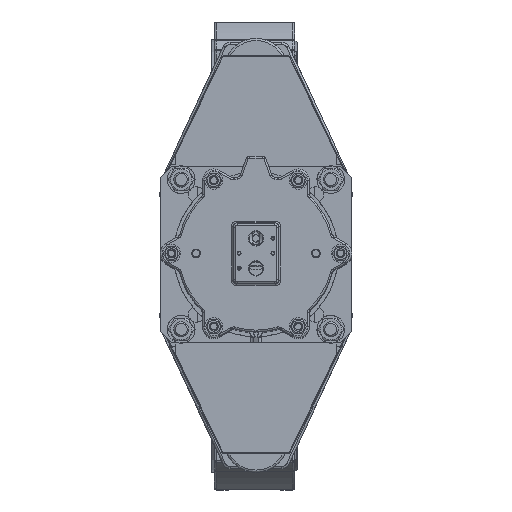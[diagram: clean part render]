
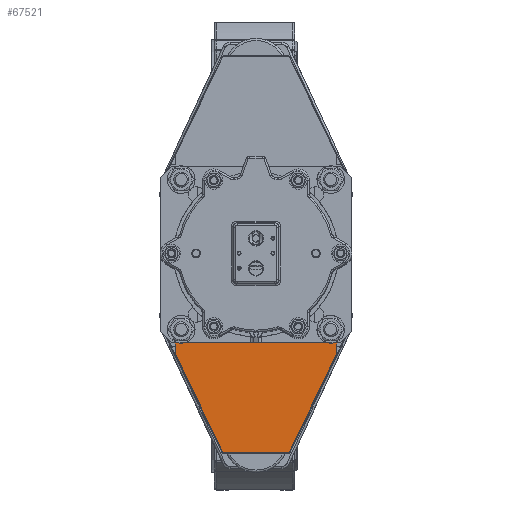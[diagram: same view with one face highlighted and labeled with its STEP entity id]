
A CAD part, top view. The second image highlights one B-rep face of the part: STEP entity #67521.
In plain terms, the highlighted planar face has unit normal (0, 0, 1).
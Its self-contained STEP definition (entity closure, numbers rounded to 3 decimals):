
#4544=PLANE('',#74350);
#7523=FACE_OUTER_BOUND('',#11712,.T.);
#11712=EDGE_LOOP('',(#55677,#55678,#55679,#55680,#55681,#55682,#55683,#55684));
#21519=LINE('',#126001,#25626);
#21525=LINE('',#126013,#25632);
#21526=LINE('',#126016,#25633);
#21529=LINE('',#126022,#25636);
#21532=LINE('',#126028,#25639);
#21535=LINE('',#126034,#25642);
#21538=LINE('',#126039,#25645);
#21541=LINE('',#126044,#25648);
#25626=VECTOR('',#90096,10.);
#25632=VECTOR('',#90104,10.);
#25633=VECTOR('',#90107,10.);
#25636=VECTOR('',#90112,10.);
#25639=VECTOR('',#90117,10.);
#25642=VECTOR('',#90122,10.);
#25645=VECTOR('',#90127,10.);
#25648=VECTOR('',#90134,10.);
#31597=VERTEX_POINT('',#125997);
#31599=VERTEX_POINT('',#126000);
#31602=VERTEX_POINT('',#126007);
#31604=VERTEX_POINT('',#126011);
#31605=VERTEX_POINT('',#126015);
#31607=VERTEX_POINT('',#126021);
#31609=VERTEX_POINT('',#126027);
#31611=VERTEX_POINT('',#126033);
#40244=EDGE_CURVE('',#31597,#31599,#21519,.T.);
#40250=EDGE_CURVE('',#31604,#31602,#21525,.T.);
#40251=EDGE_CURVE('',#31599,#31605,#21526,.T.);
#40254=EDGE_CURVE('',#31605,#31607,#21529,.T.);
#40257=EDGE_CURVE('',#31607,#31609,#21532,.T.);
#40260=EDGE_CURVE('',#31609,#31611,#21535,.T.);
#40263=EDGE_CURVE('',#31611,#31604,#21538,.T.);
#40266=EDGE_CURVE('',#31602,#31597,#21541,.T.);
#55677=ORIENTED_EDGE('',*,*,#40250,.F.);
#55678=ORIENTED_EDGE('',*,*,#40263,.F.);
#55679=ORIENTED_EDGE('',*,*,#40260,.F.);
#55680=ORIENTED_EDGE('',*,*,#40257,.F.);
#55681=ORIENTED_EDGE('',*,*,#40254,.F.);
#55682=ORIENTED_EDGE('',*,*,#40251,.F.);
#55683=ORIENTED_EDGE('',*,*,#40244,.F.);
#55684=ORIENTED_EDGE('',*,*,#40266,.F.);
#67521=ADVANCED_FACE('',(#7523),#4544,.F.);
#74350=AXIS2_PLACEMENT_3D('',#126043,#90132,#90133);
#90096=DIRECTION('',(-1.,0.,0.));
#90104=DIRECTION('',(-1.,0.,0.));
#90107=DIRECTION('',(-0.437,0.9,0.));
#90112=DIRECTION('',(0.,1.,0.));
#90117=DIRECTION('',(1.,0.,0.));
#90122=DIRECTION('',(0.,-1.,0.));
#90127=DIRECTION('',(-0.437,-0.9,0.));
#90132=DIRECTION('center_axis',(0.,0.,
-1.));
#90133=DIRECTION('ref_axis',(0.,-1.,0.));
#90134=DIRECTION('',(-1.,0.,0.));
#125997=CARTESIAN_POINT('',(-43.562,-264.113,1144.7));
#126000=CARTESIAN_POINT('',(-44.244,-264.113,1144.7));
#126001=CARTESIAN_POINT('',(-44.244,-264.113,1144.7));
#126007=CARTESIAN_POINT('',(43.562,-264.113,1144.7));
#126011=CARTESIAN_POINT('',(44.244,-264.113,1144.7));
#126013=CARTESIAN_POINT('',(-44.244,-264.113,1144.7));
#126015=CARTESIAN_POINT('',(-108.,-132.813,1144.7));
#126016=CARTESIAN_POINT('',(-108.,-132.813,1144.7));
#126021=CARTESIAN_POINT('',(-108.,-116.813,1144.7));
#126022=CARTESIAN_POINT('',(-108.,-116.813,1144.7));
#126027=CARTESIAN_POINT('',(108.,-116.813,1144.7));
#126028=CARTESIAN_POINT('',(108.,-116.813,1144.7));
#126033=CARTESIAN_POINT('',(108.,-132.813,1144.7));
#126034=CARTESIAN_POINT('',(108.,-132.813,1144.7));
#126039=CARTESIAN_POINT('',(44.244,-264.113,1144.7));
#126043=CARTESIAN_POINT('Origin',(0.,-175.892,
1144.7));
#126044=CARTESIAN_POINT('',(-43.562,-264.113,1144.7));
